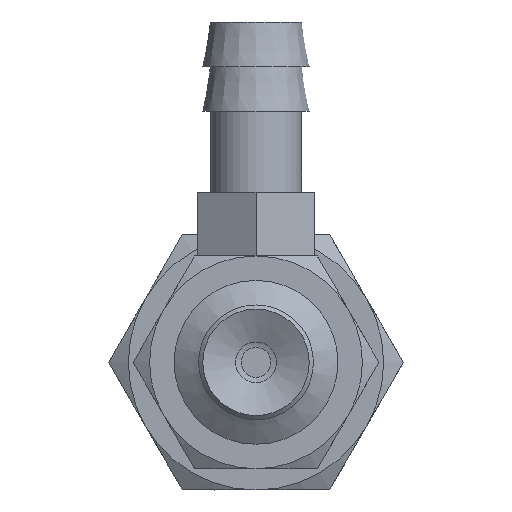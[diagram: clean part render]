
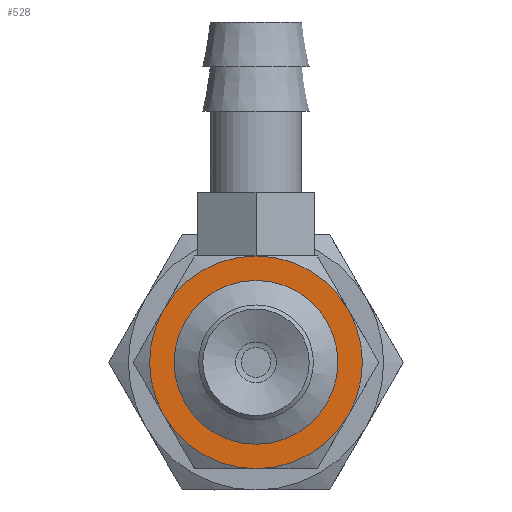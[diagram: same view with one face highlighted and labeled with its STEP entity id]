
A CAD part, front view. The second image highlights one B-rep face of the part: STEP entity #528.
In plain terms, the highlighted planar face has unit normal (0, -1, 0).
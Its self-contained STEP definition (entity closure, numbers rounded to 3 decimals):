
#528=ADVANCED_FACE('',(#758,#759),#760,.T.);
#758=FACE_BOUND('',#1090,.T.);
#759=FACE_OUTER_BOUND('',#1091,.T.);
#760=PLANE('',#1092);
#1090=EDGE_LOOP('',(#1802));
#1091=EDGE_LOOP('',(#1803,#1804,#1805,#1806,#1807,#1808));
#1092=AXIS2_PLACEMENT_3D('',#1809,#1810,#1811);
#1802=ORIENTED_EDGE('',*,*,#2325,.F.);
#1803=ORIENTED_EDGE('',*,*,#2326,.T.);
#1804=ORIENTED_EDGE('',*,*,#2285,.T.);
#1805=ORIENTED_EDGE('',*,*,#2314,.T.);
#1806=ORIENTED_EDGE('',*,*,#2327,.T.);
#1807=ORIENTED_EDGE('',*,*,#2316,.T.);
#1808=ORIENTED_EDGE('',*,*,#2328,.T.);
#1809=CARTESIAN_POINT('',(2.0,0.,0.0));
#1810=DIRECTION('',(0.0,-1.0,0.0));
#1811=DIRECTION('',(0.0,0.0,-1.0));
#2285=EDGE_CURVE('',#2613,#2610,#2614,.T.);
#2314=EDGE_CURVE('',#2610,#2578,#2663,.T.);
#2316=EDGE_CURVE('',#2618,#2664,#2666,.T.);
#2325=EDGE_CURVE('',#2678,#2678,#2679,.T.);
#2326=EDGE_CURVE('',#2602,#2613,#2680,.T.);
#2327=EDGE_CURVE('',#2578,#2618,#2681,.T.);
#2328=EDGE_CURVE('',#2664,#2602,#2682,.T.);
#2578=VERTEX_POINT('',#3332);
#2602=VERTEX_POINT('',#3374);
#2610=VERTEX_POINT('',#3390);
#2613=VERTEX_POINT('',#3395);
#2614=CIRCLE('',#3396,5.0);
#2618=VERTEX_POINT('',#3402);
#2663=CIRCLE('',#3473,5.0);
#2664=VERTEX_POINT('',#3474);
#2666=CIRCLE('',#3478,5.0);
#2678=VERTEX_POINT('',#3500);
#2679=CIRCLE('',#3501,2.0);
#2680=CIRCLE('',#3502,5.0);
#2681=CIRCLE('',#3503,5.0);
#2682=CIRCLE('',#3504,5.0);
#3332=CARTESIAN_POINT('',(0.0,0.0,5.0));
#3374=CARTESIAN_POINT('',(0.0,0.0,-5.0));
#3390=CARTESIAN_POINT('',(4.33,0.0,2.5));
#3395=CARTESIAN_POINT('',(4.33,0.0,-2.5));
#3396=AXIS2_PLACEMENT_3D('',#3804,#3805,#3806);
#3402=CARTESIAN_POINT('',(-4.33,0.,2.5));
#3473=AXIS2_PLACEMENT_3D('',#3840,#3841,#3842);
#3474=CARTESIAN_POINT('',(-4.33,0.0,-2.5));
#3478=AXIS2_PLACEMENT_3D('',#3843,#3844,#3845);
#3500=CARTESIAN_POINT('',(0.0,0.,-2.0));
#3501=AXIS2_PLACEMENT_3D('',#3853,#3854,#3855);
#3502=AXIS2_PLACEMENT_3D('',#3856,#3857,#3858);
#3503=AXIS2_PLACEMENT_3D('',#3859,#3860,#3861);
#3504=AXIS2_PLACEMENT_3D('',#3862,#3863,#3864);
#3804=CARTESIAN_POINT('',(0.0,0.,0.0));
#3805=DIRECTION('',(0.0,-1.0,0.0));
#3806=DIRECTION('',(0.0,0.0,-1.0));
#3840=CARTESIAN_POINT('',(0.0,0.,0.0));
#3841=DIRECTION('',(0.0,-1.0,0.0));
#3842=DIRECTION('',(0.0,0.0,-1.0));
#3843=CARTESIAN_POINT('',(0.0,0.,0.0));
#3844=DIRECTION('',(0.0,-1.0,0.0));
#3845=DIRECTION('',(0.0,0.0,-1.0));
#3853=CARTESIAN_POINT('',(0.0,0.,0.0));
#3854=DIRECTION('',(0.0,-1.0,0.0));
#3855=DIRECTION('',(0.0,0.0,-1.0));
#3856=CARTESIAN_POINT('',(0.0,0.,0.0));
#3857=DIRECTION('',(0.0,-1.0,0.0));
#3858=DIRECTION('',(0.0,0.0,-1.0));
#3859=CARTESIAN_POINT('',(0.0,0.,0.0));
#3860=DIRECTION('',(0.0,-1.0,0.0));
#3861=DIRECTION('',(0.0,0.0,-1.0));
#3862=CARTESIAN_POINT('',(0.0,0.,0.0));
#3863=DIRECTION('',(0.0,-1.0,0.0));
#3864=DIRECTION('',(0.0,0.0,-1.0));
